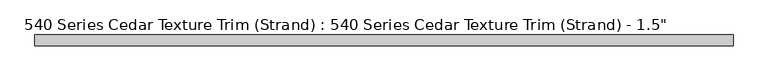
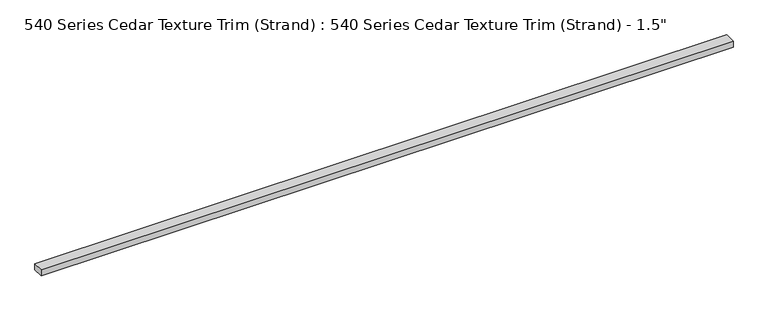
"""IFC4 building model written with IfcOpenShell, lengths in millimetres: proxy geometry."""

from ifc_helpers import new_model, si_unit, origin, origin_with_axes, place, context, project, spatial, polyline, outline, extrude, source, transform, mapped, element, save


def proxy_8a65723a(model_context):
    return source(origin(), model_context, "Body", "SweptSolid", [
        extrude(outline(polyline([(2438.4, 0.0), (0.0, 0.0), (0.0, 38.1), (2438.4, 38.1), (2438.4, 0.0)])), origin_with_axes(), (0.0, 0.0, 1.0), 23.1179687),
    ])


if __name__ == "__main__":
    model = new_model("IFC4")
    model_context = context("Model", 3, world=origin())
    ifc_project = project(units=[si_unit("LENGTHUNIT", "METRE", prefix="MILLI")], contexts=[model_context])
    site = spatial("IfcSite", under=ifc_project)
    building = spatial("IfcBuilding", under=site)
    placement = place(None, origin())
    proxy_shape = proxy_8a65723a(model_context)
    element("IfcBuildingElementProxy", 1, Name="540 Series Cedar Texture Trim (Strand) : 540 Series Cedar Texture Trim (Strand) - 1.5\"", ObjectType="540 Series Cedar Texture Trim (Strand) : 540 Series Cedar Texture Trim (Strand) - 1.5\"", at=placement, inside=building, context=model_context, shape_type="MappedRepresentation", body=[
        mapped(proxy_shape, transform((0.0, 0.0, 0.0), x_axis=(1.0, 0.0, 0.0), y_axis=(0.0, 1.0, 0.0), z_axis=(0.0, 0.0, 1.0))),
    ])
    save(model, "model.ifc")
